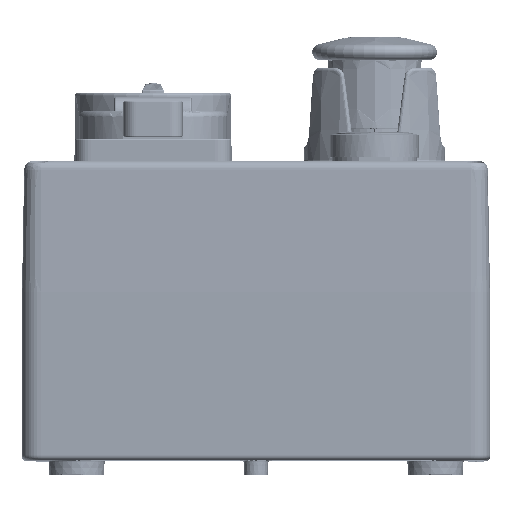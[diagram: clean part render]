
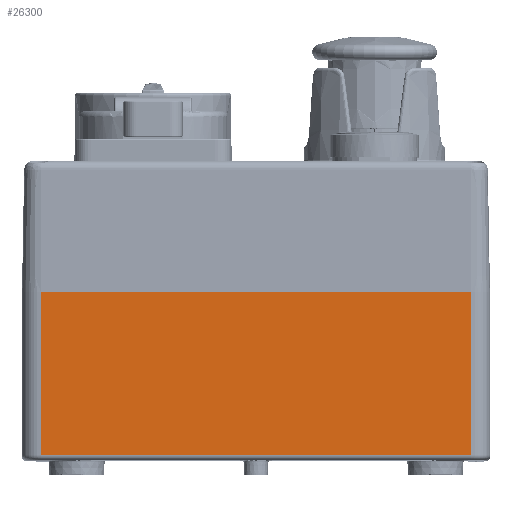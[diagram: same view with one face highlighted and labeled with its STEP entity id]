
A CAD part, top view. The second image highlights one B-rep face of the part: STEP entity #26300.
In plain terms, the highlighted planar face has unit normal (0, 0, 1) as drawn and (0, 1, 0) by its records, which use the part's own axes.
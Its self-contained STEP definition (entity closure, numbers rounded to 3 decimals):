
#8198=DIRECTION('',(0.,0.,1.));
#8199=VECTOR('',#8198,138.);
#8200=CARTESIAN_POINT('',(54.,110.,-69.));
#8201=LINE('',#8200,#8199);
#8206=DIRECTION('',(0.,0.,-1.));
#8207=VECTOR('',#8206,138.);
#8208=CARTESIAN_POINT('',(1.5,110.,69.));
#8209=LINE('',#8208,#8207);
#8314=DIRECTION('',(-1.,0.,0.));
#8315=VECTOR('',#8314,52.5);
#8316=CARTESIAN_POINT('',(54.,110.,69.));
#8317=LINE('',#8316,#8315);
#8354=DIRECTION('',(-1.,0.,0.));
#8355=VECTOR('',#8354,52.5);
#8356=CARTESIAN_POINT('',(54.,110.,-69.));
#8357=LINE('',#8356,#8355);
#12450=CARTESIAN_POINT('',(54.,110.,-69.));
#12451=CARTESIAN_POINT('',(54.,110.,69.));
#12452=VERTEX_POINT('',#12450);
#12453=VERTEX_POINT('',#12451);
#13192=CARTESIAN_POINT('',(1.5,110.,-69.));
#13194=VERTEX_POINT('',#13192);
#13218=CARTESIAN_POINT('',(1.5,110.,69.));
#13219=VERTEX_POINT('',#13218);
#26286=CARTESIAN_POINT('',(0.,110.,-75.));
#26287=DIRECTION('',(0.,1.,0.));
#26288=DIRECTION('',(0.,0.,1.));
#26289=AXIS2_PLACEMENT_3D('',#26286,#26287,#26288);
#26290=PLANE('',#26289);
#26292=ORIENTED_EDGE('',*,*,#26291,.T.);
#26294=ORIENTED_EDGE('',*,*,#26293,.F.);
#26295=ORIENTED_EDGE('',*,*,#26249,.T.);
#26297=ORIENTED_EDGE('',*,*,#26296,.T.);
#26298=EDGE_LOOP('',(#26292,#26294,#26295,#26297));
#26299=FACE_OUTER_BOUND('',#26298,.F.);
#26300=ADVANCED_FACE('',(#26299),#26290,.T.);
#26249=EDGE_CURVE('',#12452,#12453,#8201,.T.);
#26291=EDGE_CURVE('',#13219,#13194,#8209,.T.);
#26293=EDGE_CURVE('',#12452,#13194,#8357,.T.);
#26296=EDGE_CURVE('',#12453,#13219,#8317,.T.);
